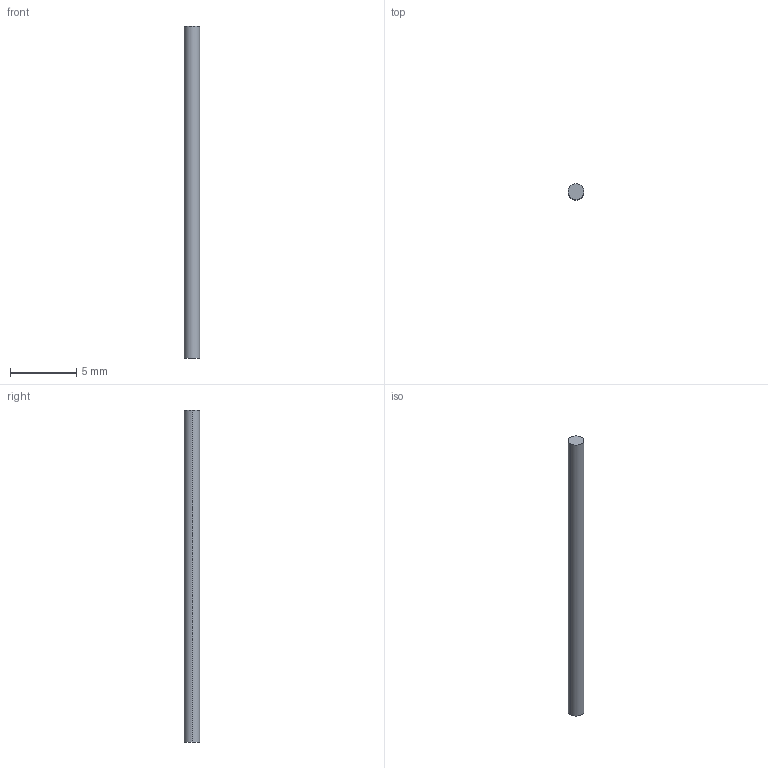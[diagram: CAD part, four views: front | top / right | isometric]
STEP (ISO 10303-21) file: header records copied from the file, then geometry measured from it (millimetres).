
FILE_DESCRIPTION (( 'STEP AP214' ), '1' );
FILE_NAME ('CUPP.STEP', '2016-01-14T07:31:25', ( '' ), ( '' ), 'SwSTEP 2.0', 'SolidWorks 2015', '' );
FILE_SCHEMA (( 'AUTOMOTIVE_DESIGN' ));
Length unit declared in the file: millimetre
Products named in the file (1): CUPP
Bounding box: 1.2 x 1.2 x 25 mm (x, y, z)
Volume: 28.3 mm3; surface area: 96.5 mm2
Topology: 1 solids, 1 shells, 4 faces, 6 edges, 4 vertices
Faces by surface type: cylinder 2, plane 2
Entity records: 128 total; most frequent: DIRECTION 20, CARTESIAN_POINT 15, ORIENTED_EDGE 12, AXIS2_PLACEMENT_3D 9, EDGE_CURVE 6, EDGE_LOOP 4, ADVANCED_FACE 4, FACE_OUTER_BOUND 4
